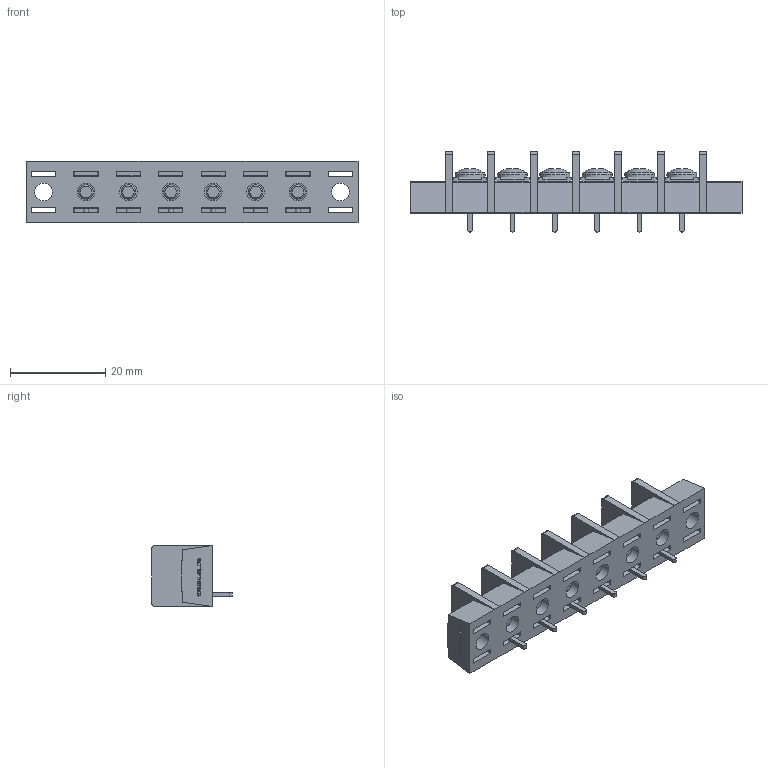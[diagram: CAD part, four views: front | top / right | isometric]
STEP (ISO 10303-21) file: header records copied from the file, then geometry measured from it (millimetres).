
FILE_DESCRIPTION(/* description */ ('Alibre Inc.'),/* implementation_level */ '2;1');
FILE_NAME(/* name */ 'export0',/* time_stamp */ '2015-10-20T08:22:25+09:00',/* author */ (''),/* organization */ (''),/* preprocessor_version */ 'ST-DEVELOPER v14',/* originating_system */ 'Alibre',/* authorisation */ '');
FILE_SCHEMA (('CONFIG_CONTROL_DESIGN'));
Length unit declared in the file: centimetre
Products named in the file (1): ID_1
Bounding box: 69.63 x 16.8 x 12.8 mm (x, y, z)
Volume: 5979.2 mm3; surface area: 7402.2 mm2
Topology: 1 solids, 103 shells, 2098 faces, 5404 edges, 3578 vertices
Faces by surface type: plane 1568, bspline 416, cylinder 66, cone 30, torus 12, sphere 6
Full cylindrical faces by diameter (mm): 3 x12, 3.7 x8, 4.6 x8, 6.3 x6
Entity records: 60877 total; most frequent: CARTESIAN_POINT 14753, ORIENTED_EDGE 10664, DIRECTION 6354, EDGE_CURVE 5332, VECTOR 4120, LINE 4120, VERTEX_POINT 3558, EDGE_LOOP 2312
